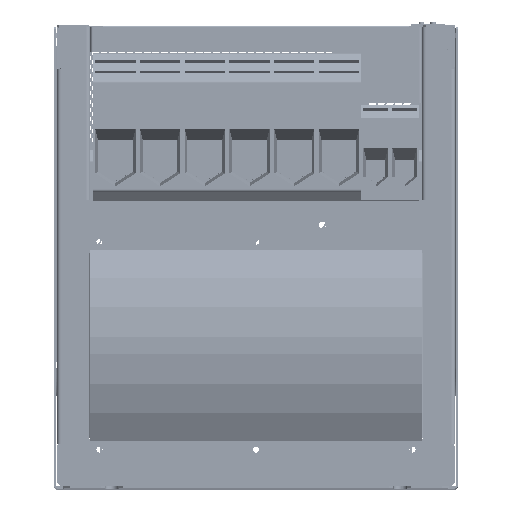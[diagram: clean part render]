
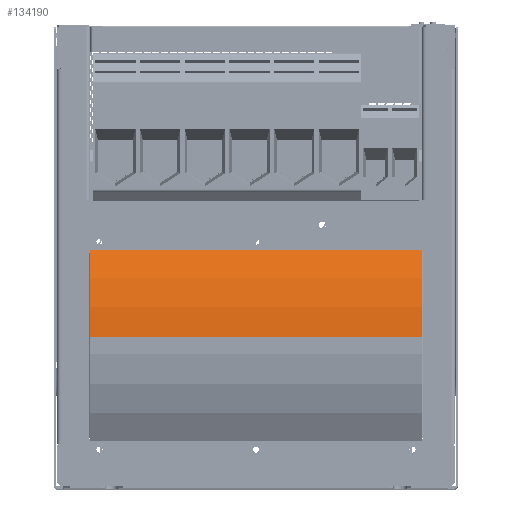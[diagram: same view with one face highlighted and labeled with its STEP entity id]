
A CAD part, top view. The second image highlights one B-rep face of the part: STEP entity #134190.
In plain terms, the highlighted cylindrical face has radius 129.33 mm (diameter 258.66 mm), a partial arc.
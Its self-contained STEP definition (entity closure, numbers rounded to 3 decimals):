
#134190=ADVANCED_FACE('',(#149899),#142410,.T.);
#142410=CYLINDRICAL_SURFACE('',#377991,129.33);
#149899=FACE_OUTER_BOUND('',#164874,.T.);
#164874=EDGE_LOOP('',(#260617,#260618,#260619,#260620));
#191260=LINE('',#493562,#215920);
#191261=LINE('',#493566,#215921);
#215920=VECTOR('',#411549,1.);
#215921=VECTOR('',#411552,1.);
#260617=ORIENTED_EDGE('',*,*,#346070,.T.);
#260618=ORIENTED_EDGE('',*,*,#346071,.F.);
#260619=ORIENTED_EDGE('',*,*,#346072,.F.);
#260620=ORIENTED_EDGE('',*,*,#346073,.T.);
#314816=VERTEX_POINT('',#493560);
#314817=VERTEX_POINT('',#493561);
#314818=VERTEX_POINT('',#493563);
#314819=VERTEX_POINT('',#493565);
#346070=EDGE_CURVE('',#314816,#314817,#368892,.T.);
#346071=EDGE_CURVE('',#314818,#314817,#191260,.T.);
#346072=EDGE_CURVE('',#314819,#314818,#368893,.T.);
#346073=EDGE_CURVE('',#314819,#314816,#191261,.T.);
#368892=CIRCLE('',#377989,129.33);
#368893=CIRCLE('',#377990,129.33);
#377989=AXIS2_PLACEMENT_3D('',#493559,#411547,#411548);
#377990=AXIS2_PLACEMENT_3D('',#493564,#411550,#411551);
#377991=AXIS2_PLACEMENT_3D('',#493567,#411553,#411554);
#411547=DIRECTION('',(1.,0.,0.));
#411548=DIRECTION('',(0.,0.,-1.));
#411549=DIRECTION('',(-1.,0.,0.));
#411550=DIRECTION('',(1.,0.,0.));
#411551=DIRECTION('',(0.,0.,-1.));
#411552=DIRECTION('',(-1.,0.,0.));
#411553=DIRECTION('',(-1.,0.,0.));
#411554=DIRECTION('',(0.,0.,1.));
#493559=CARTESIAN_POINT('',(-119.964,-13.451,169.799));
#493560=CARTESIAN_POINT('',(-119.964,52.583,281.));
#493561=CARTESIAN_POINT('',(-119.964,-7.679,299.));
#493562=CARTESIAN_POINT('',(110.036,-7.679,299.));
#493563=CARTESIAN_POINT('',(110.036,-7.679,299.));
#493564=CARTESIAN_POINT('',(110.036,-13.451,169.799));
#493565=CARTESIAN_POINT('',(110.036,52.583,281.));
#493566=CARTESIAN_POINT('',(110.036,52.583,281.));
#493567=CARTESIAN_POINT('',(110.036,-13.451,169.799));
